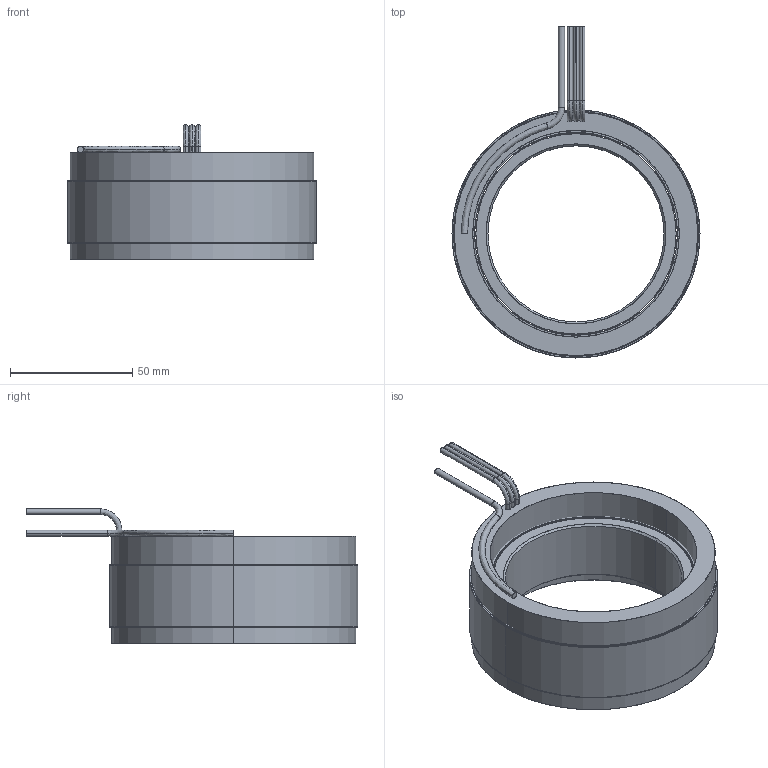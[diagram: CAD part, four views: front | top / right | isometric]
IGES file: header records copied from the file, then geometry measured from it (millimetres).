
Start section: SolidWorks IGES file using analytic representation for surfaces
Global section: file name: \\fs01.aveox.local\user documents\eng\My Documents\6100395-XX STATOR AND ROTOR SET, UT-4000-32P3, SENSORLESS\6100395-03.IGS; native system: SolidWorks 2016; preprocessor: SolidWorks 2016; author: eng; date: 201215.093441; units: inch
Bounding box: 101.6 x 135.89 x 54.99 mm (x, y, z)
Surface area: 87143.2 mm2 (no closed solid volume)
Topology: 0 solids, 0 shells, 75 faces, 2224 edges, 2224 vertices
Faces by surface type: revolution 46, bspline 29
